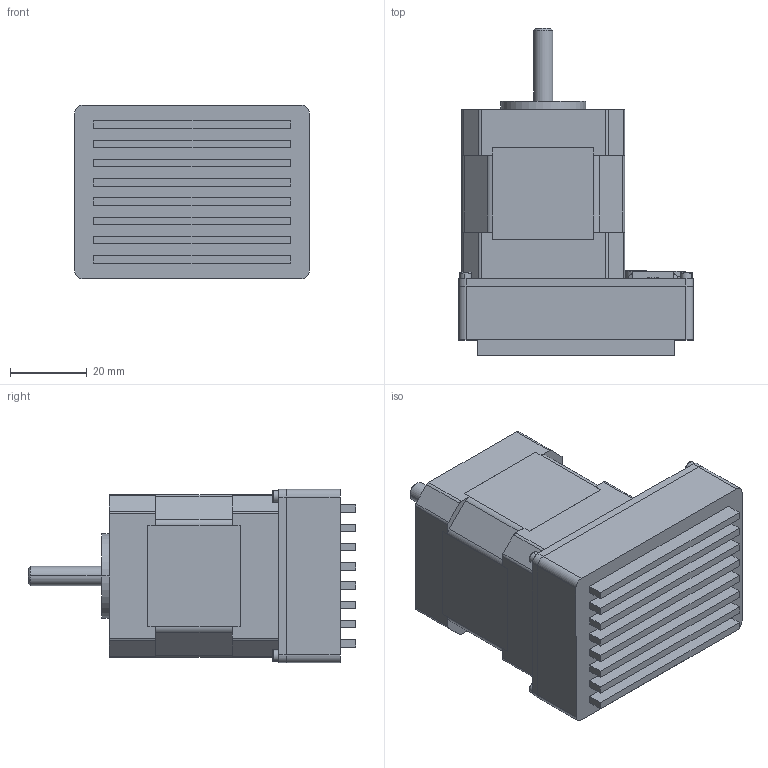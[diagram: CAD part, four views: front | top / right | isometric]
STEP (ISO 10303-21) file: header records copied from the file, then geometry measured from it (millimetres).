
FILE_DESCRIPTION (( 'STEP AP214' ), '1' );
FILE_NAME ('iMOT171B-XM-CAN.STEP', '2015-10-14T14:13:18', ( 'a_neacsu' ), ( '' ), 'SwSTEP 2.0', 'SolidWorks 2013', '' );
FILE_SCHEMA (( 'AUTOMOTIVE_DESIGN' ));
Length unit declared in the file: millimetre
Products named in the file (13): P026.710.0011.20A - Singleboard; bn7_screw_inbus_m1.6_6; BN16_screw_inbus_M3_flathead_4; ME042ASxxx.revA; iMOT171B-XM-CAN; P026.759.0011.01A.Cover_D‚faut; P026.759.0009.11A.Baseplate.XM_D‚faut; P026.610.0011.20A - Singleboard_User_NoConn; LED_3mm_bicolour; HexSwitch_P36THR; microfit_pcb_2x3_corrected; microfit_pcb_2x5_corrected_D‚faut; microfit_pcb_2x2_corrected_D‚faut
Assembly tree (15 placements, depth 3):
  iMOT171B-XM-CAN
    ME042ASxxx.revA
    BN16_screw_inbus_M3_flathead_4
    bn7_screw_inbus_m1.6_6  x4
    P026.610.0011.20A - Singleboard_User_NoConn
      P026.710.0011.20A - Singleboard
      microfit_pcb_2x2_corrected_D‚faut
      microfit_pcb_2x5_corrected_D‚faut
      microfit_pcb_2x3_corrected
      HexSwitch_P36THR
      LED_3mm_bicolour
    P026.759.0009.11A.Baseplate.XM_D‚faut
    P026.759.0011.01A.Cover_D‚faut
Bounding box: 61 x 85 x 45 mm (x, y, z)
Volume: 99811.1 mm3; surface area: 40989.2 mm2
Topology: 14 solids, 14 shells, 2272 faces, 5914 edges, 3794 vertices
Faces by surface type: plane 1443, cylinder 581, bspline 133, torus 56, cone 56, sphere 3
Entity records: 82859 total; most frequent: CARTESIAN_POINT 19810, ORIENTED_EDGE 10886, DIRECTION 10099, EDGE_CURVE 5443, LINE 4149, VECTOR 4149, VERTEX_POINT 3537, AXIS2_PLACEMENT_3D 2975
